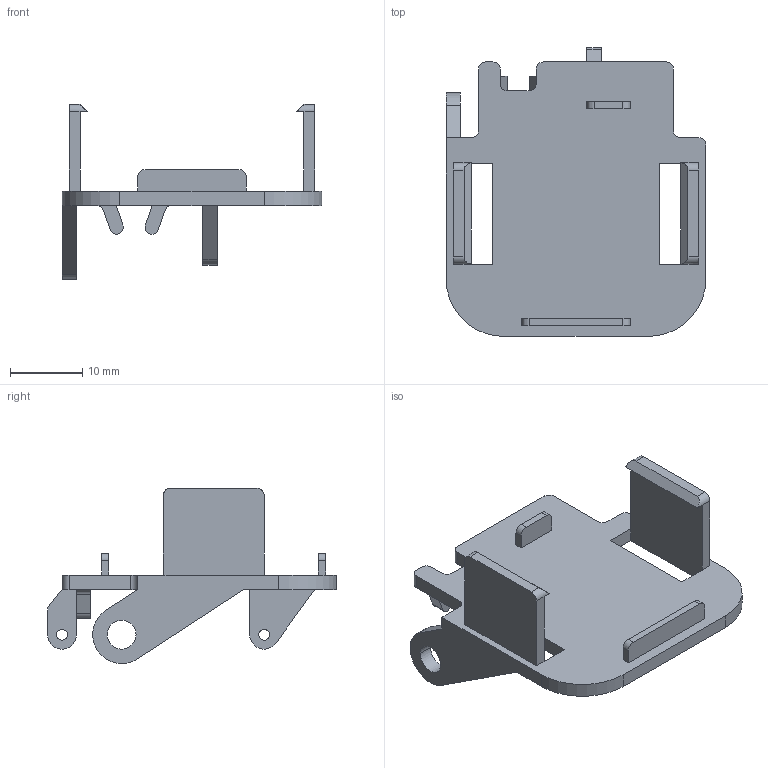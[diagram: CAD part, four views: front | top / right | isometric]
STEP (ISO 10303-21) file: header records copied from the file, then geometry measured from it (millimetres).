
FILE_DESCRIPTION (( 'STEP AP203' ), '1' );
FILE_NAME ('縐褲.ST', '2026-09-16T02:58:09', ( '' ), ( '' ), 'SwSTEP 2.0', 'SolidWorks 2024', '' );
FILE_SCHEMA (( 'CONFIG_CONTROL_DESIGN' ));
Length unit declared in the file: millimetre
Products named in the file (1): 卡壳
Bounding box: 36 x 40 x 24.24 mm (x, y, z)
Volume: 3192 mm3; surface area: 4135.8 mm2
Topology: 1 solids, 1 shells, 101 faces, 273 edges, 177 vertices
Faces by surface type: plane 64, cylinder 37
Entity records: 3254 total; most frequent: CARTESIAN_POINT 564, ORIENTED_EDGE 546, DIRECTION 543, EDGE_CURVE 273, VECTOR 199, LINE 199, VERTEX_POINT 177, AXIS2_PLACEMENT_3D 172
